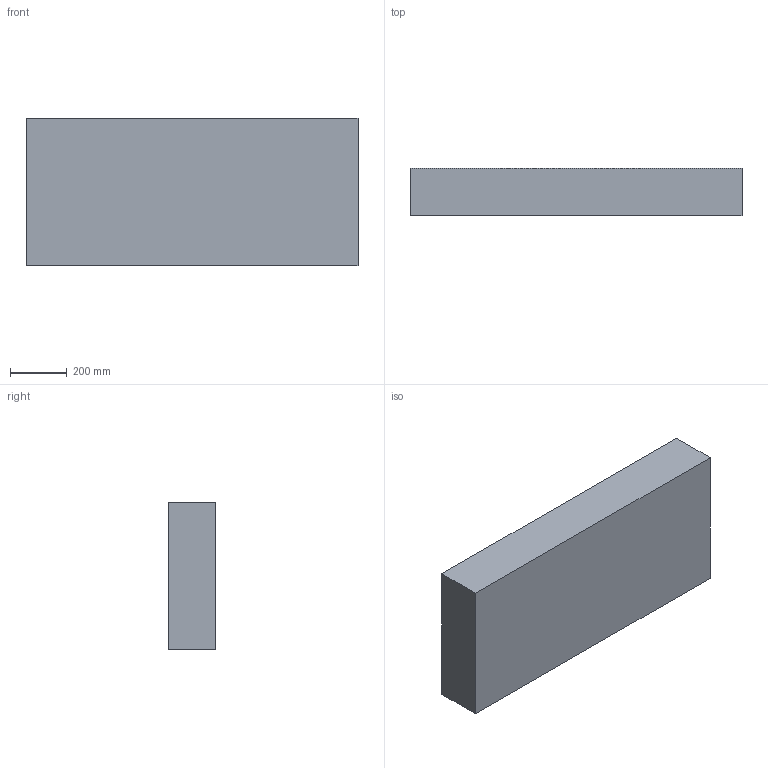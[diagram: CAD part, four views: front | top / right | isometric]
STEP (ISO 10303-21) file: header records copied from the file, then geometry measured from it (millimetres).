
FILE_DESCRIPTION (( 'STEP AP214' ), '1' );
FILE_NAME ('Bottom inside Type 7200.STEP', '2022-07-15T08:29:08', ( '' ), ( '' ), 'SwSTEP 2.0', 'SolidWorks 2021', '' );
FILE_SCHEMA (( 'AUTOMOTIVE_DESIGN' ));
Length unit declared in the file: millimetre
Products named in the file (1): Bottom inside Type 7200
Bounding box: 1170.39 x 168 x 520.39 mm (x, y, z)
Volume: 37236842.4 mm3; surface area: 2186413.3 mm2
Topology: 1 solids, 1 shells, 203 faces, 574 edges, 374 vertices
Faces by surface type: plane 113, cylinder 36, cone 36, bspline 16, sphere 2
Entity records: 9922 total; most frequent: CARTESIAN_POINT 5068, ORIENTED_EDGE 1144, DIRECTION 844, EDGE_CURVE 572, VERTEX_POINT 374, VECTOR 328, LINE 328, AXIS2_PLACEMENT_3D 258
